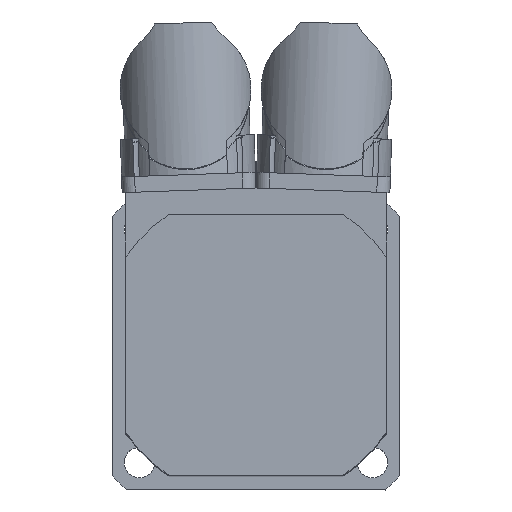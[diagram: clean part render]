
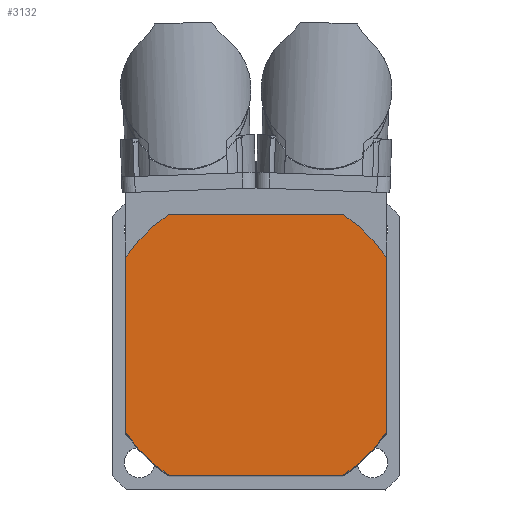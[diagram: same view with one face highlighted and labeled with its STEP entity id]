
A CAD part, top view. The second image highlights one B-rep face of the part: STEP entity #3132.
In plain terms, the highlighted planar face has unit normal (0, 0, 1).
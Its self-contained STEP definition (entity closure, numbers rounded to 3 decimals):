
#667=CIRCLE('',#3341,30.);
#668=CIRCLE('',#3343,30.);
#669=CIRCLE('',#3345,30.);
#671=CIRCLE('',#3348,30.);
#863=VERTEX_POINT('',#5128);
#864=VERTEX_POINT('',#5130);
#871=VERTEX_POINT('',#5145);
#872=VERTEX_POINT('',#5147);
#883=VERTEX_POINT('',#5214);
#884=VERTEX_POINT('',#5216);
#895=VERTEX_POINT('',#5264);
#896=VERTEX_POINT('',#5273);
#1121=VECTOR('',#3818,1.);
#1129=VECTOR('',#3827,1.);
#1137=VECTOR('',#3844,1.);
#1157=VECTOR('',#3908,1.);
#1321=LINE('',#5129,#1121);
#1329=LINE('',#5146,#1129);
#1337=LINE('',#5215,#1137);
#1357=LINE('',#5276,#1157);
#1596=EDGE_CURVE('',#863,#864,#1321,.T.);
#1604=EDGE_CURVE('',#871,#872,#1329,.T.);
#1616=EDGE_CURVE('',#883,#884,#1337,.T.);
#1641=EDGE_CURVE('',#895,#871,#667,.T.);
#1643=EDGE_CURVE('',#872,#863,#668,.T.);
#1644=EDGE_CURVE('',#864,#883,#669,.T.);
#1646=EDGE_CURVE('',#884,#896,#671,.T.);
#1648=EDGE_CURVE('',#896,#895,#1357,.T.);
#2271=ORIENTED_EDGE('',*,*,#1641,.F.);
#2272=ORIENTED_EDGE('',*,*,#1648,.F.);
#2273=ORIENTED_EDGE('',*,*,#1646,.F.);
#2274=ORIENTED_EDGE('',*,*,#1616,.F.);
#2275=ORIENTED_EDGE('',*,*,#1644,.F.);
#2276=ORIENTED_EDGE('',*,*,#1596,.F.);
#2277=ORIENTED_EDGE('',*,*,#1643,.F.);
#2278=ORIENTED_EDGE('',*,*,#1604,.F.);
#2746=EDGE_LOOP('',(#2271,#2272,#2273,#2274,#2275,#2276,#2277,#2278));
#2951=FACE_BOUND('',#2746,.T.);
#3132=ADVANCED_FACE('',(#2951),#6124,.T.);
#3341=AXIS2_PLACEMENT_3D('',#5263,#3889,#3890);
#3343=AXIS2_PLACEMENT_3D('',#5267,#3894,#3895);
#3345=AXIS2_PLACEMENT_3D('',#5269,#3898,#3899);
#3348=AXIS2_PLACEMENT_3D('',#5272,#3904,#3905);
#3350=AXIS2_PLACEMENT_3D('',#5277,#3909,$);
#3818=DIRECTION('',(-1.,0.,0.));
#3827=DIRECTION('',(0.,-1.,0.));
#3844=DIRECTION('',(0.,1.,0.));
#3889=DIRECTION('',(0.,0.,-1.));
#3890=DIRECTION('',(-25.,-16.583,0.));
#3894=DIRECTION('',(0.,0.,-1.));
#3895=DIRECTION('',(-16.583,25.,0.));
#3898=DIRECTION('',(0.,0.,-1.));
#3899=DIRECTION('',(25.,16.583,0.));
#3904=DIRECTION('',(0.,0.,-1.));
#3905=DIRECTION('',(16.583,-25.,0.));
#3908=DIRECTION('',(1.,0.,0.));
#3909=DIRECTION('',(0.,0.,1.));
#5128=CARTESIAN_POINT('',(16.583,-25.,3.5));
#5129=CARTESIAN_POINT('',(16.583,-25.,3.5));
#5130=CARTESIAN_POINT('',(-16.583,-25.,3.5));
#5145=CARTESIAN_POINT('',(25.,16.583,3.5));
#5146=CARTESIAN_POINT('',(25.,16.583,3.5));
#5147=CARTESIAN_POINT('',(25.,-16.583,3.5));
#5214=CARTESIAN_POINT('',(-25.,-16.583,3.5));
#5215=CARTESIAN_POINT('',(-25.,-16.583,3.5));
#5216=CARTESIAN_POINT('',(-25.,16.583,3.5));
#5263=CARTESIAN_POINT('',(0.,0.,3.5));
#5264=CARTESIAN_POINT('',(16.583,25.,3.5));
#5267=CARTESIAN_POINT('',(0.,0.,3.5));
#5269=CARTESIAN_POINT('',(0.,0.,3.5));
#5272=CARTESIAN_POINT('',(0.,0.,3.5));
#5273=CARTESIAN_POINT('',(-16.583,25.,3.5));
#5276=CARTESIAN_POINT('',(-16.583,25.,3.5));
#5277=CARTESIAN_POINT('',(0.,0.,3.5));
#6124=PLANE('',#3350);
